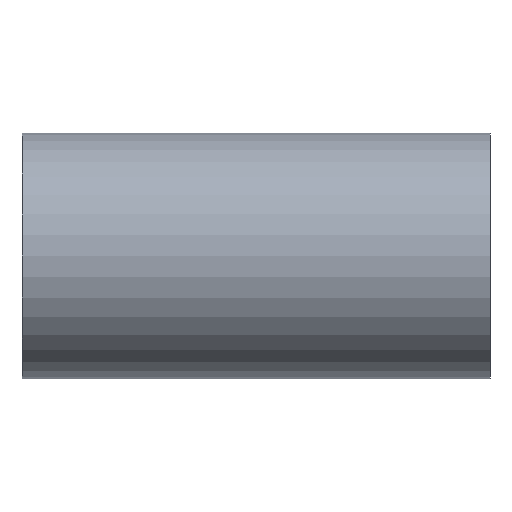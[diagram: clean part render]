
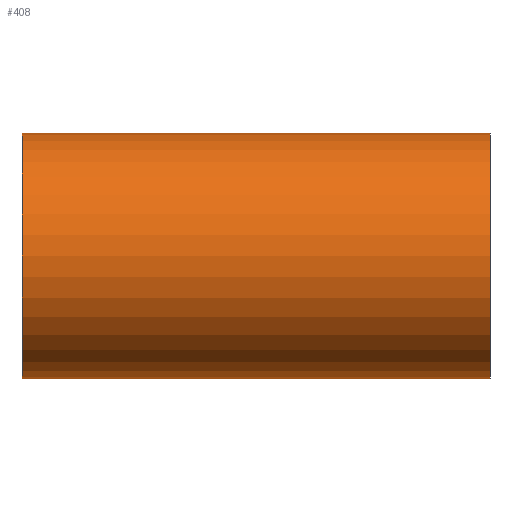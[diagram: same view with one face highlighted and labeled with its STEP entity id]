
A CAD part, front view. The second image highlights one B-rep face of the part: STEP entity #408.
In plain terms, the highlighted cylindrical face has radius 21 mm (diameter 42 mm), a full revolution.
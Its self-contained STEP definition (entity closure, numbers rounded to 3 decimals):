
#16=FACE_BOUND('',#102,.T.);
#17=FACE_BOUND('',#103,.T.);
#26=ELLIPSE('',#433,29.698,21.);
#27=ELLIPSE('',#434,29.698,21.);
#29=CYLINDRICAL_SURFACE('',#431,21.);
#75=FACE_OUTER_BOUND('',#101,.T.);
#101=EDGE_LOOP('',(#343));
#102=EDGE_LOOP('',(#344,#345));
#103=EDGE_LOOP('',(#346));
#124=CIRCLE('',#432,21.);
#125=CIRCLE('',#435,21.);
#195=VERTEX_POINT('',#12158);
#196=VERTEX_POINT('',#12160);
#197=VERTEX_POINT('',#12161);
#198=VERTEX_POINT('',#12164);
#253=EDGE_CURVE('',#195,#195,#124,.T.);
#254=EDGE_CURVE('',#196,#197,#26,.T.);
#255=EDGE_CURVE('',#197,#196,#27,.T.);
#256=EDGE_CURVE('',#198,#198,#125,.T.);
#343=ORIENTED_EDGE('',*,*,#253,.F.);
#344=ORIENTED_EDGE('',*,*,#254,.T.);
#345=ORIENTED_EDGE('',*,*,#255,.T.);
#346=ORIENTED_EDGE('',*,*,#256,.F.);
#408=ADVANCED_FACE('',(#75,#16,#17),#29,.T.);
#431=AXIS2_PLACEMENT_3D('',#12157,#483,#484);
#432=AXIS2_PLACEMENT_3D('',#12159,#485,#486);
#433=AXIS2_PLACEMENT_3D('',#12162,#487,#488);
#434=AXIS2_PLACEMENT_3D('',#12163,#489,#490);
#435=AXIS2_PLACEMENT_3D('',#12165,#491,#492);
#483=DIRECTION('center_axis',(1.,0.,0.));
#484=DIRECTION('ref_axis',(0.,-1.,0.));
#485=DIRECTION('center_axis',(-1.,0.,0.));
#486=DIRECTION('ref_axis',(0.,-1.,0.));
#487=DIRECTION('center_axis',(-0.707,-0.707,0.));
#488=DIRECTION('ref_axis',(0.707,-0.707,0.));
#489=DIRECTION('center_axis',(0.707,-0.707,0.));
#490=DIRECTION('ref_axis',(0.707,0.707,0.));
#491=DIRECTION('center_axis',(1.,0.,0.));
#492=DIRECTION('ref_axis',(0.,-1.,0.));
#12157=CARTESIAN_POINT('Origin',(0.,0.,0.));
#12158=CARTESIAN_POINT('',(-40.,21.,0.));
#12159=CARTESIAN_POINT('Origin',(-40.,0.,0.));
#12160=CARTESIAN_POINT('',(0.,0.,21.));
#12161=CARTESIAN_POINT('',(0.,0.,-21.));
#12162=CARTESIAN_POINT('Origin',(0.,0.,0.));
#12163=CARTESIAN_POINT('Origin',(0.,0.,0.));
#12164=CARTESIAN_POINT('',(40.,21.,0.));
#12165=CARTESIAN_POINT('Origin',(40.,0.,0.));
